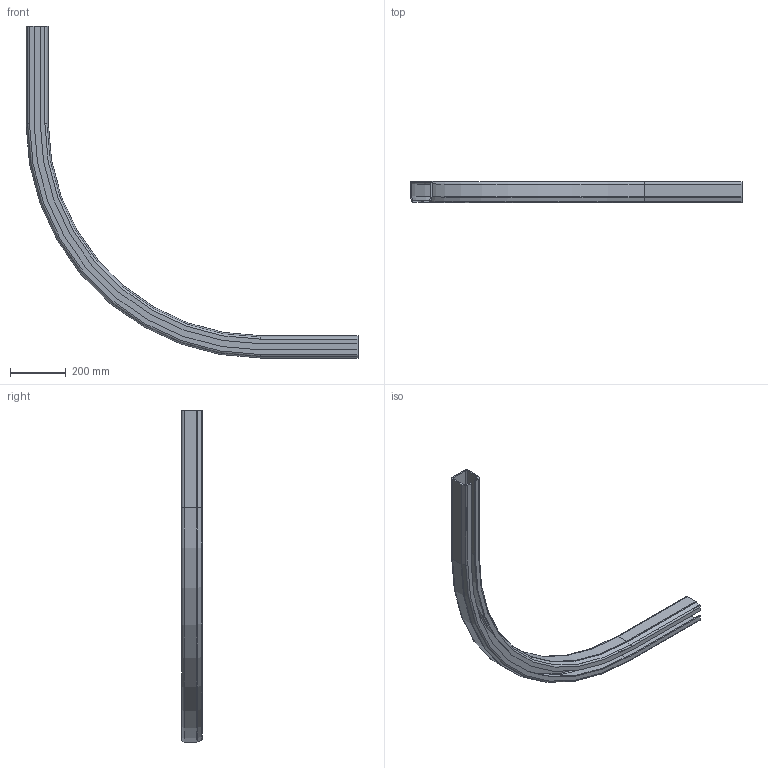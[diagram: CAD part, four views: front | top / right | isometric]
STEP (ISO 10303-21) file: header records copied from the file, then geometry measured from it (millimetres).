
FILE_DESCRIPTION(/* description */ (''),/* implementation_level */ '2;1');
FILE_NAME(/* name */ 'Q:\sge-ma\Produktmanagement-STB\STB\Workspace\stp\010337047.stp',/* time_stamp */ '2015-07-09T13:02:02+02:00',/* author */ ('avschreier'),/* organization */ (''),/* preprocessor_version */ 'ST-DEVELOPER v15.6',/* originating_system */ 'Autodesk Inventor 2015',/* authorisation */ '');
FILE_SCHEMA (('CONFIG_CONTROL_DESIGN'));
Length unit declared in the file: millimetre
Products named in the file (1): 010337047
Bounding box: 1190 x 75 x 1190 mm (x, y, z)
Volume: 2441781.5 mm3; surface area: 998774.9 mm2
Topology: 1 solids, 1 shells, 74 faces, 184 edges, 112 vertices
Faces by surface type: cylinder 30, plane 28, torus 12, cone 4
Entity records: 2212 total; most frequent: DIRECTION 410, CARTESIAN_POINT 371, ORIENTED_EDGE 368, EDGE_CURVE 184, AXIS2_PLACEMENT_3D 151, VERTEX_POINT 112, LINE 108, VECTOR 108
